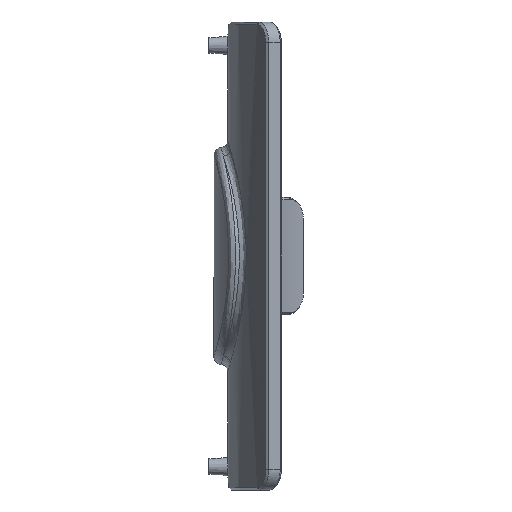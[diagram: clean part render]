
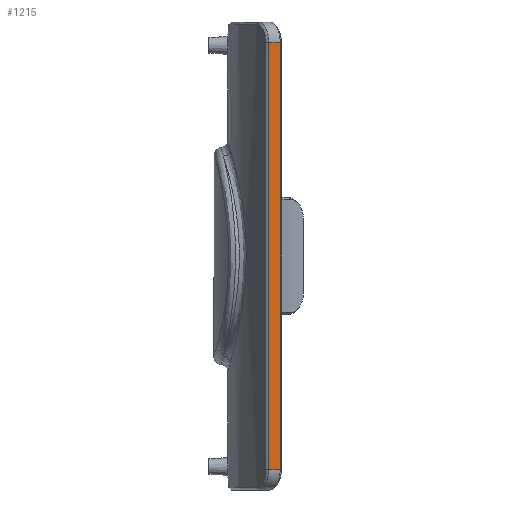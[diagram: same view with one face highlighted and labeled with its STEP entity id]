
A CAD part, left-side view. The second image highlights one B-rep face of the part: STEP entity #1215.
In plain terms, the highlighted planar face has unit normal (-1, 0, 0).
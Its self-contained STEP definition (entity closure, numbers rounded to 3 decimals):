
#158=FACE_OUTER_BOUND('',#234,.T.);
#234=EDGE_LOOP('',(#1003,#1004,#1005,#1006));
#366=LINE('',#2074,#438);
#388=LINE('',#2474,#460);
#404=LINE('',#2898,#476);
#405=LINE('',#2899,#477);
#438=VECTOR('',#1390,10.);
#460=VECTOR('',#1450,10.);
#476=VECTOR('',#1484,10.);
#477=VECTOR('',#1485,10.);
#520=VERTEX_POINT('',#2042);
#522=VERTEX_POINT('',#2070);
#549=VERTEX_POINT('',#2445);
#551=VERTEX_POINT('',#2473);
#650=EDGE_CURVE('',#520,#522,#366,.T.);
#698=EDGE_CURVE('',#549,#551,#388,.T.);
#734=EDGE_CURVE('',#551,#520,#404,.T.);
#735=EDGE_CURVE('',#522,#549,#405,.T.);
#1003=ORIENTED_EDGE('',*,*,#650,.F.);
#1004=ORIENTED_EDGE('',*,*,#734,.F.);
#1005=ORIENTED_EDGE('',*,*,#698,.F.);
#1006=ORIENTED_EDGE('',*,*,#735,.F.);
#1157=PLANE('',#1303);
#1215=ADVANCED_FACE('',(#158),#1157,.T.);
#1303=AXIS2_PLACEMENT_3D('',#2897,#1482,#1483);
#1390=DIRECTION('',(0.,0.,-1.));
#1450=DIRECTION('',(0.,0.,1.));
#1482=DIRECTION('center_axis',(-1.,0.,0.));
#1483=DIRECTION('ref_axis',(0.,-1.,0.));
#1484=DIRECTION('',(0.,-1.,0.));
#1485=DIRECTION('',(0.,1.,0.));
#2042=CARTESIAN_POINT('',(-211.95,399.66,278.));
#2070=CARTESIAN_POINT('',(-211.95,399.66,-278.));
#2074=CARTESIAN_POINT('',(-211.95,399.66,0.));
#2445=CARTESIAN_POINT('',(-211.95,414.554,-278.));
#2473=CARTESIAN_POINT('',(-211.95,414.554,278.));
#2474=CARTESIAN_POINT('',(-211.95,414.554,0.));
#2897=CARTESIAN_POINT('Origin',(-211.95,417.254,0.));
#2898=CARTESIAN_POINT('',(-211.95,428.407,278.));
#2899=CARTESIAN_POINT('',(-211.95,428.407,-278.));
